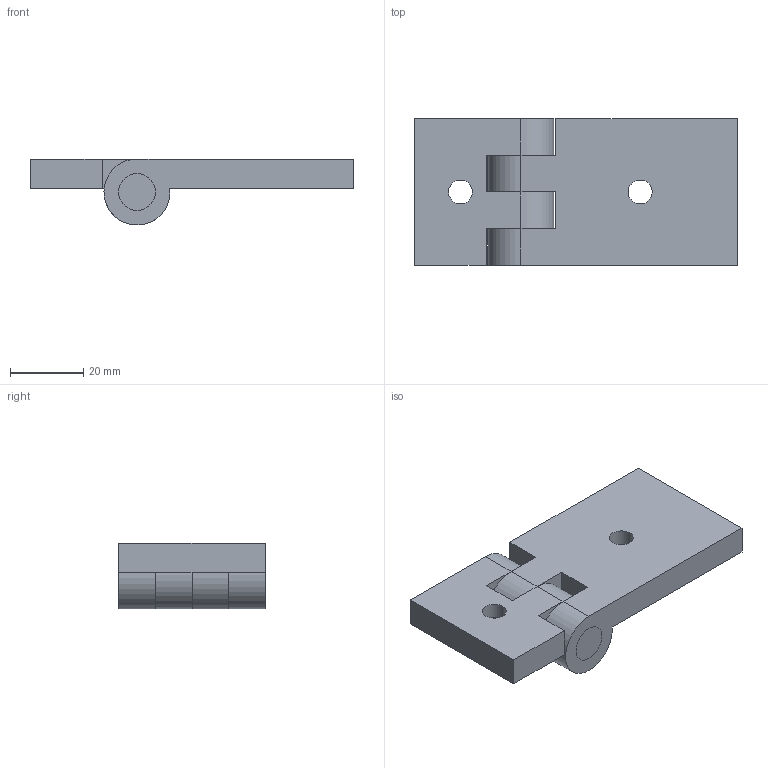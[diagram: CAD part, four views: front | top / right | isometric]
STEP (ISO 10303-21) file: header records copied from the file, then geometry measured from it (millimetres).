
FILE_DESCRIPTION((''),'2;1');
FILE_NAME('CE3060_ASM','2002-12-27T',('Lipro doo'),('Lipro d.o.o.'),'PRO/ENGINEER BY PARAMETRIC TECHNOLOGY CORPORATION, 2001150','PRO/ENGINEER BY PARAMETRIC TECHNOLOGY CORPORATION, 2001150','');
FILE_SCHEMA(('CONFIG_CONTROL_DESIGN'));
Length unit declared in the file: millimetre
Products named in the file (4): OS_FI10X40; CE30_1; CE60_1; CE3060_ASM
Assembly tree (3 placements, depth 2):
  CE3060_ASM
    OS_FI10X40
    CE30_1
    CE60_1
Bounding box: 88 x 40 x 17.99 mm (x, y, z)
Volume: 32242.5 mm3; surface area: 14113.6 mm2
Topology: 3 solids, 3 shells, 44 faces, 110 edges, 72 vertices
Faces by surface type: plane 22, cylinder 18, cone 4
Entity records: 1462 total; most frequent: DIRECTION 252, CARTESIAN_POINT 233, ORIENTED_EDGE 220, EDGE_CURVE 110, AXIS2_PLACEMENT_3D 91, VERTEX_POINT 72, VECTOR 70, LINE 70
